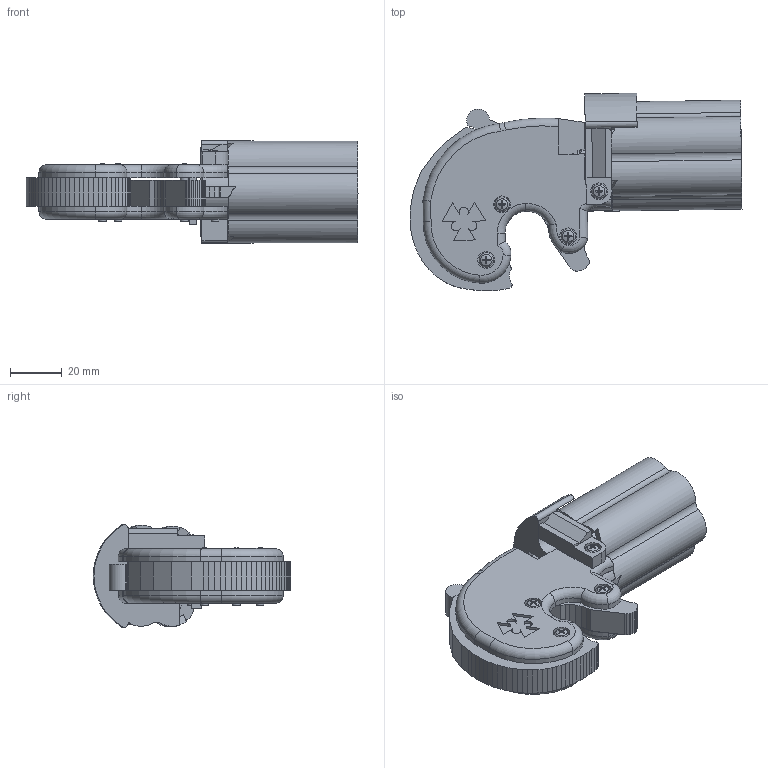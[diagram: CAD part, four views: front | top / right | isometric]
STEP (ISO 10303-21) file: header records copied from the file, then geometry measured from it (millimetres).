
FILE_DESCRIPTION((''),'2;1');
FILE_NAME('C:\MRFR\SHOCK\Hexen\STP\hexen.stp','2013-08-15T20:07:02',('mrfr'),(''),'Autodesk Inventor 2013','Autodesk Inventor 2013','');
FILE_SCHEMA(('AUTOMOTIVE_DESIGN { 1 0 10303 214 1 1 1 1 }'));
Length unit declared in the file: millimetre
Products named in the file (22): hexen; frame_R; cover; barrel; hammer; tube; trigger; frame_L; part; safe; lock; Šroubový spoj; ISO 7045 H M3 x 20 - 4.8 - H; ISO 4035 M3; ISO 7045 H M3 x 25 - 4.8 - H; spring; Kovaný šroub s hlavou s vnitřním vybráním - Metrický M3x0,5 x 60; Samojistná šestihranná matice - Ocel Metrický Property Class 5 and 10 - Metric M3 x 0.5 Typ kovu
Assembly tree (31 placements, depth 3):
  hexen
    frame_R
    cover
    barrel
    hammer
    tube  x6
    trigger
    frame_L
    part
    safe
    lock
    Šroubový spoj
      ISO 7045 H M3 x 20 - 4.8 - H
      ISO 4035 M3
    Šroubový spoj
      ISO 7045 H M3 x 20 - 4.8 - H
      ISO 4035 M3
    Šroubový spoj
      ISO 7045 H M3 x 20 - 4.8 - H
      ISO 4035 M3
    Šroubový spoj
      ISO 7045 H M3 x 25 - 4.8 - H
      ISO 4035 M3
    spring
    Šroubový spoj
      Kovaný šroub s hlavou s vnitřním vybráním - Metrický M3x0,5 x 60
      Samojistná šestihranná matice - Ocel Metrický Property Class 5 and 10 - Metric M3 x 0.5 Typ kovu
Bounding box: 127.97 x 76.13 x 39.67 mm (x, y, z)
Volume: 115897.9 mm3; surface area: 65055.8 mm2
Topology: 26 solids, 26 shells, 845 faces, 2335 edges, 1652 vertices
Faces by surface type: plane 574, cylinder 122, cone 75, torus 44, bspline 26, sphere 4
Full cylindrical faces by diameter (mm): 2 x1, 2.459 x5, 2.729 x4, 3 x18, 4 x2, 4.675 x1, 5.5 x1, 6 x6, 6.5 x4, 8 x13
Entity records: 24779 total; most frequent: CARTESIAN_POINT 5204, ORIENTED_EDGE 3802, DIRECTION 3707, EDGE_CURVE 1901, VECTOR 1475, LINE 1475, VERTEX_POINT 1286, AXIS2_PLACEMENT_3D 1116
